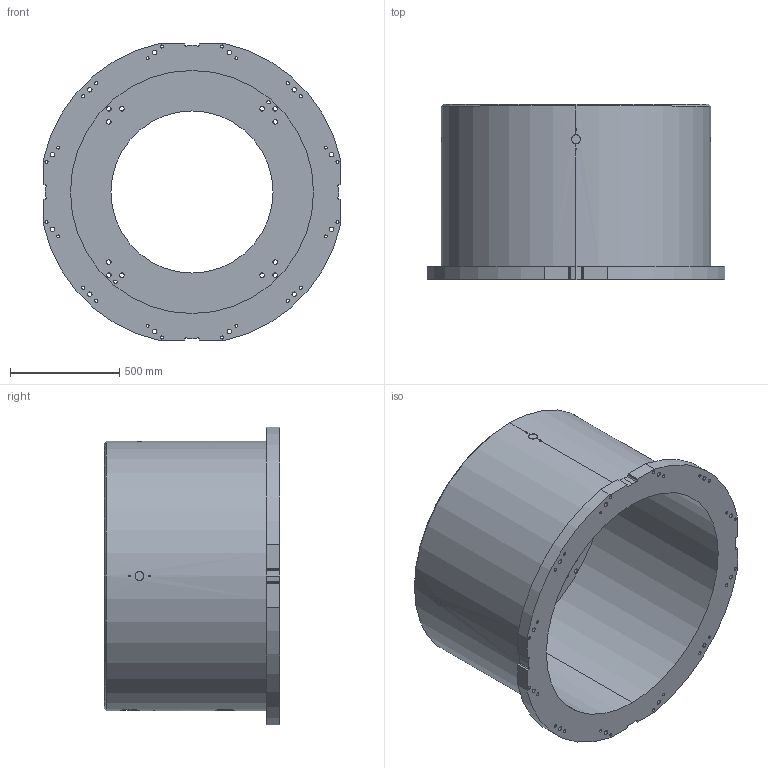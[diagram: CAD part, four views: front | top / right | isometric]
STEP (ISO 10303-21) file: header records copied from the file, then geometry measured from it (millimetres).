
FILE_DESCRIPTION (( 'STEP AP214' ), '1' );
FILE_NAME ('T-800.STEP', '2024-01-24T12:31:47', ( '' ), ( '' ), 'SwSTEP 2.0', 'SolidWorks 2022', '' );
FILE_SCHEMA (( 'AUTOMOTIVE_DESIGN' ));
Length unit declared in the file: millimetre
Products named in the file (1): T-800
Bounding box: 1360 x 800 x 1360 mm (x, y, z)
Volume: 224542885.4 mm3; surface area: 8114704.9 mm2
Topology: 1 solids, 1 shells, 235 faces, 661 edges, 440 vertices
Faces by surface type: cylinder 181, plane 28, bspline 24, cone 2
Entity records: 13615 total; most frequent: CARTESIAN_POINT 6304, ORIENTED_EDGE 1322, DIRECTION 1177, EDGE_CURVE 661, AXIS2_PLACEMENT_3D 466, VERTEX_POINT 440, EDGE_LOOP 349, CIRCLE 254
